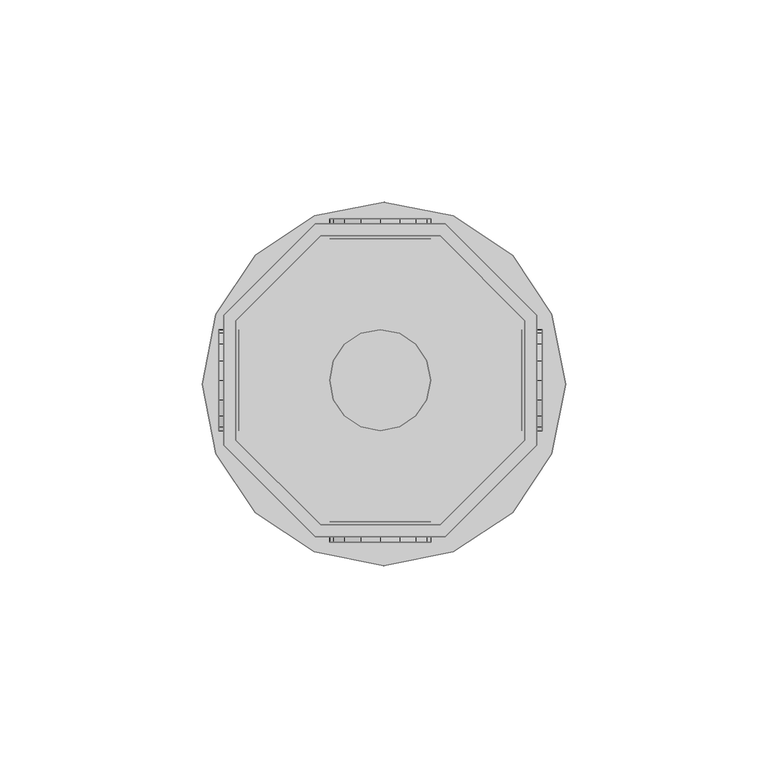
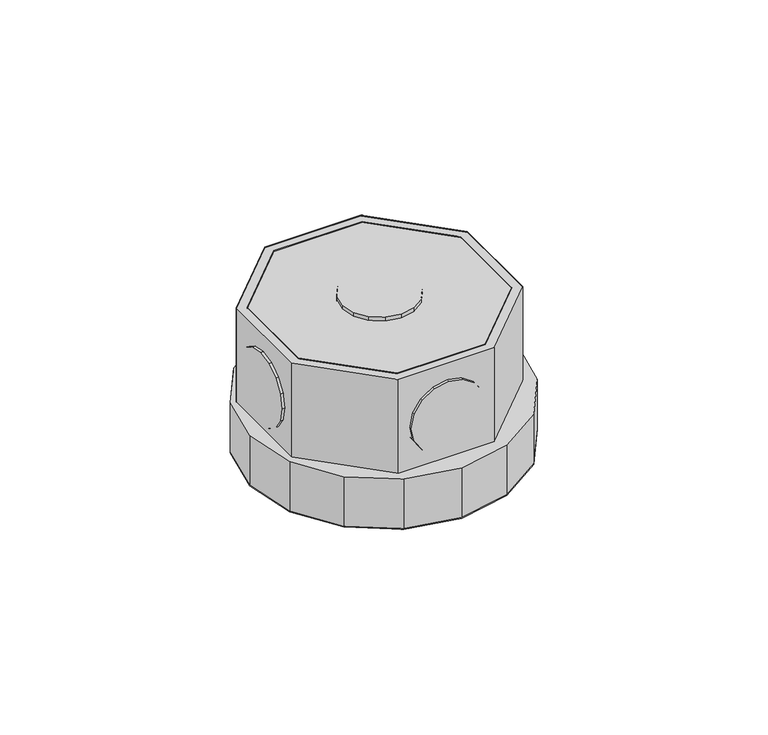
"""IFC4 building model written with IfcOpenShell, lengths in millimetres: light fixture geometry,  213980 :  213980."""

import ifcopenshell
import ifcopenshell.guid

model = None  # the IFC model being written
_history = None  # IfcOwnerHistory: only IFC2X3 demands one
_inside = {}  # id of a spatial element -> (the spatial element, [elements in it])
_under = {}  # id of a project, library or spatial element -> (it, [spatial elements below it])
_declared = {}  # id of a project -> (the project, [libraries it declares])
_typed = {}  # id of a type object -> (the type object, [elements of that type])
_made_of = {}  # id of a material, layer set ... -> (it, [elements and type objects made of it])


def new_model(schema):
    """Start an empty IFC model of exactly this schema.

    Asked for "IFC4X3", IfcOpenShell would pick the latest addendum, in which some entities
    have other attributes; the version numbers below select the first issue.
    IFC2X3 requires an IfcOwnerHistory on every rooted entity: one is made here for all.
    """
    global model, _history
    if schema == "IFC4X3":
        model = ifcopenshell.file(schema_version=(4, 3, 0, 0))
    else:
        model = ifcopenshell.file(schema=schema)
    _inside.clear()
    _under.clear()
    _declared.clear()
    _typed.clear()
    _made_of.clear()
    _history = None
    if model.schema == "IFC2X3":
        org = make("IfcOrganization", Name="unknown")
        user = make(
            "IfcPersonAndOrganization",
            ThePerson=make("IfcPerson", FamilyName="unknown"),
            TheOrganization=org,
        )
        app = make(
            "IfcApplication",
            ApplicationDeveloper=org,
            Version="unknown",
            ApplicationFullName="unknown",
            ApplicationIdentifier="unknown",
        )
        _history = make(
            "IfcOwnerHistory",
            OwningUser=user,
            OwningApplication=app,
            ChangeAction="ADDED",
            CreationDate=0,
        )
    return model


def make(cls, **values):
    """One entity of the class cls with the attributes given. An attribute that is None is left unset."""
    return model.create_entity(
        cls, **{name: value for name, value in values.items() if value is not None}
    )


def rooted(cls, **values):
    """An entity with a GlobalId (a new one), such as an element, a storey or a relation."""
    return make(cls, GlobalId=ifcopenshell.guid.new(), OwnerHistory=_history, **values)


def si_unit(unit_type, name, prefix=None):
    """IfcSIUnit, for example si_unit("LENGTHUNIT", "METRE", prefix="MILLI")."""
    return make("IfcSIUnit", UnitType=unit_type, Prefix=prefix, Name=name)


def assignment(units):
    """IfcUnitAssignment: the units of a project."""
    return None if units is None else make("IfcUnitAssignment", Units=units)


def point(xyz):
    """IfcCartesianPoint."""
    return None if xyz is None else make("IfcCartesianPoint", Coordinates=xyz)


def direction(xyz):
    """IfcDirection."""
    return None if xyz is None else make("IfcDirection", DirectionRatios=xyz)


def frame(location, z_axis=None, x_axis=None):
    """IfcAxis2Placement3D, a coordinate frame: its origin and axes. An axis left out is left unset."""
    return make(
        "IfcAxis2Placement3D",
        Location=point(location),
        Axis=direction(z_axis),
        RefDirection=direction(x_axis),
    )


def origin():
    """The frame at (0, 0, 0) with its axes left unset."""
    return frame((0.0, 0.0, 0.0))


def place(relative_to, where):
    """IfcLocalPlacement: puts the frame where relative to a parent placement (None: the world)."""
    return make(
        "IfcLocalPlacement", PlacementRelTo=relative_to, RelativePlacement=where
    )


def context(
    kind, dimensions, precision=None, world=None, true_north=None, identifier=None
):
    """IfcGeometricRepresentationContext, for example the 3D "Model" context."""
    return make(
        "IfcGeometricRepresentationContext",
        ContextIdentifier=identifier,
        ContextType=kind,
        CoordinateSpaceDimension=dimensions,
        Precision=precision,
        WorldCoordinateSystem=world,
        TrueNorth=true_north,
    )


def project(units=None, contexts=None):
    """IfcProject with its units and contexts."""
    return rooted(
        "IfcProject",
        Name="project",
        RepresentationContexts=contexts,
        UnitsInContext=assignment(units),
    )


def spatial(cls, under=None, at=None, **own):
    """A site, building, storey or space (cls), placed at a placement, below another one or the project."""
    s = rooted(cls, ObjectPlacement=at, **own)
    if under is not None:
        _under.setdefault(under.id(), (under, []))[1].append(s)
    return s


def point_list(points):
    """IfcCartesianPointList2D or 3D."""
    cls = (
        "IfcCartesianPointList2D" if len(points[0]) == 2 else "IfcCartesianPointList3D"
    )
    return make(cls, CoordList=points)


def triangles(points, corners, closed=None, point_numbers=None):
    """IfcTriangulatedFaceSet: each triangle names its three corners, points numbered from 1."""
    return make(
        "IfcTriangulatedFaceSet",
        Coordinates=point_list(points),
        Closed=closed,
        CoordIndex=corners,
        PnIndex=point_numbers,
    )


def shape(context_of_items, identifier, shape_type, items):
    """IfcShapeRepresentation: the items that make up one representation, for example the "Body"."""
    return make(
        "IfcShapeRepresentation",
        ContextOfItems=context_of_items,
        RepresentationIdentifier=identifier,
        RepresentationType=shape_type,
        Items=items,
    )


def source(mapping_origin, context_of_items, identifier, shape_type, items):
    """IfcRepresentationMap: a shape defined once, which mapped items show again and again."""
    return make(
        "IfcRepresentationMap",
        MappingOrigin=mapping_origin,
        MappedRepresentation=shape(context_of_items, identifier, shape_type, items),
    )


def transform(
    local_origin,
    x_axis=None,
    y_axis=None,
    z_axis=None,
    scale=None,
    scale2=None,
    scale3=None,
    uniform=True,
):
    """IfcCartesianTransformationOperator3D, or its non-uniform kind. x_axis, y_axis, z_axis: its Axis1, 2, 3."""
    if uniform:
        return make(
            "IfcCartesianTransformationOperator3D",
            Axis1=direction(x_axis),
            Axis2=direction(y_axis),
            LocalOrigin=point(local_origin),
            Scale=scale,
            Axis3=direction(z_axis),
        )
    return make(
        "IfcCartesianTransformationOperator3DnonUniform",
        Axis1=direction(x_axis),
        Axis2=direction(y_axis),
        LocalOrigin=point(local_origin),
        Scale=scale,
        Axis3=direction(z_axis),
        Scale2=scale2,
        Scale3=scale3,
    )


def mapped(mapping_source, mapping_target):
    """IfcMappedItem: shows the shape of a source again, moved by a transform."""
    return make(
        "IfcMappedItem", MappingSource=mapping_source, MappingTarget=mapping_target
    )


def made_of(thing, what):
    """Note that an element or type object is made of a material, layer set ...; save() writes the relation."""
    if what is not None:
        _made_of.setdefault(what.id(), (what, []))[1].append(thing)
    return thing


def element(
    cls,
    number,
    at=None,
    inside=None,
    cuts=None,
    type_object=None,
    material=None,
    context=None,
    identifier="Body",
    shape_type=None,
    held_by="IfcProductDefinitionShape",
    body=None,
    shapes=None,
    **own,
):
    """One element of the class cls, such as IfcWall. Its Tag is "e" and its number.

    at: its placement. inside: the storey or other place that contains it. cuts: it is an
    opening in that element (IfcRelVoidsElement). A single representation is given by context,
    identifier, shape_type and body (its items); several are given by shapes. held_by: the class
    of the entity that holds the representations. save() writes the other relations.
    """
    e = rooted(cls, Tag="e%d" % number, ObjectPlacement=at, **own)
    if body is not None:
        shapes = [shape(context, identifier, shape_type, body)]
    if shapes is not None:
        e.Representation = make(held_by, Representations=shapes)
    if inside is not None:
        _inside.setdefault(inside.id(), (inside, []))[1].append(e)
    if cuts is not None:
        rooted(
            "IfcRelVoidsElement", RelatingBuildingElement=cuts, RelatedOpeningElement=e
        )
    if type_object is not None:
        _typed.setdefault(type_object.id(), (type_object, []))[1].append(e)
    return made_of(e, material)


def aggregate(whole, parts):
    """IfcRelAggregates: a whole, such as a stair, and the parts it consists of."""
    return rooted("IfcRelAggregates", RelatingObject=whole, RelatedObjects=parts)


def save(model, path):
    """Write the relations noted so far, then the file.

    IfcRelAggregates (storeys below a building ...), IfcRelContainedInSpatialStructure (elements
    in a storey), IfcRelDefinesByType, IfcRelAssociatesMaterial and IfcRelDeclares: one each for
    every whole, place, type object, material and project.
    """
    for whole, parts in _under.values():
        aggregate(whole, parts)
    for where, things in _inside.values():
        rooted(
            "IfcRelContainedInSpatialStructure",
            RelatedElements=things,
            RelatingStructure=where,
        )
    for kind, things in _typed.values():
        rooted("IfcRelDefinesByType", RelatedObjects=things, RelatingType=kind)
    for what, things in _made_of.values():
        rooted("IfcRelAssociatesMaterial", RelatedObjects=things, RelatingMaterial=what)
    for by, libraries in _declared.values():
        rooted("IfcRelDeclares", RelatingContext=by, RelatedDefinitions=libraries)
    model.write(path)


def light_fixture_628bbf70(model_context):
    return source(origin(), model_context, "Body", "Tessellation", [
        triangles([(5260.3800751, 25358.0010132, 2924.5999741), (5230.7801376, 25358.0010132, 2975.400071), (5230.7801376, 25358.0010132, 2924.5999741), (5260.3800751, 25358.0010132, 2975.400071), (5261.5800018, 25283.5009094, 2924.5999741), (5229.480217, 25283.5009094, 2975.400071), (5229.480217, 25283.5009094, 2924.5999741), (5261.5800018, 25283.5009094, 2975.400071), (5209.7802567, 25336.9999695, 2975.400071), (5209.7802567, 25336.9999695, 2924.5999741), (5284.2797791, 25306.1995239, 2924.5999741), (5284.2797791, 25306.1995239, 2975.400071), (5209.7802567, 25307.3994507, 2975.400071), (5209.7802567, 25307.3994507, 2924.5999741), (5284.2797791, 25338.2998901, 2924.5999741), (5284.2797791, 25338.2998901, 2975.400071), (5230.7801376, 25286.5007263, 2975.400071), (5230.7801376, 25286.5007263, 2924.5999741), (5261.5800018, 25361.0008301, 2924.5999741), (5261.5800018, 25361.0008301, 2975.400071), (5260.3800751, 25286.5007263, 2924.5999741), (5260.3800751, 25286.5007263, 2975.400071), (5229.480217, 25361.0008301, 2975.400071), (5229.480217, 25361.0008301, 2924.5999741), (5281.2799622, 25307.3994507, 2924.5999741), (5281.2799622, 25307.3994507, 2975.400071), (5206.7798584, 25338.2998901, 2975.400071), (5206.7798584, 25338.2998901, 2924.5999741), (5206.7798584, 25306.1995239, 2975.400071), (5281.2799622, 25336.9999695, 2975.400071), (5281.2799622, 25336.9999695, 2924.5999741), (5206.7798584, 25306.1995239, 2924.5999741), (5209.7802567, 25307.3994507, 2972.3999634), (5230.7801376, 25286.5007263, 2972.3999634), (5260.3800751, 25286.5007263, 2972.3999634), (5281.2799622, 25307.3994507, 2972.3999634), (5281.2799622, 25336.9999695, 2972.3999634), (5260.3800751, 25358.0010132, 2972.3999634), (5230.7801376, 25358.0010132, 2972.3999634), (5209.7802567, 25336.9999695, 2972.3999634), (5206.7798584, 25338.2998901, 2942.4000504), (5229.480217, 25361.0008301, 2942.4000504), (5261.5800018, 25361.0008301, 2942.4000504), (5284.2797791, 25338.2998901, 2942.4000504), (5284.2797791, 25306.1995239, 2942.4000504), (5261.5800018, 25283.5009094, 2942.4000504), (5229.480217, 25283.5009094, 2942.4000504), (5206.7798584, 25306.1995239, 2942.4000504), (5229.1802353, 25279.8011353, 2942.4000504), (5204.8799744, 25304.0996521, 2942.4000504), (5214.5799637, 25289.5005432, 2942.4000504), (5201.4801819, 25321.3009277, 2942.4000504), (5204.8799744, 25338.5998718, 2942.4000504), (5214.5799637, 25353.1989807, 2942.4000504), (5229.1802353, 25362.9007141, 2942.4000504), (5246.4797607, 25366.3005066, 2942.4000504), (5263.6798737, 25362.9007141, 2942.4000504), (5287.9801346, 25338.5998718, 2942.4000504), (5278.2801453, 25353.1989807, 2942.4000504), (5246.4797607, 25276.2990234, 2942.4000504), (5263.6798737, 25279.8011353, 2942.4000504), (5278.2801453, 25289.5005432, 2942.4000504), (5287.9801346, 25304.0996521, 2942.4000504), (5291.479921, 25321.3009277, 2942.4000504), (5204.8799744, 25304.0996521, 2924.5999741), (5229.1802353, 25279.8011353, 2924.5999741), (5214.5799637, 25289.5005432, 2924.5999741), (5201.4801819, 25321.3009277, 2924.5999741), (5204.8799744, 25338.5998718, 2924.5999741), (5214.5799637, 25353.1989807, 2924.5999741), (5229.1802353, 25362.9007141, 2924.5999741), (5246.4797607, 25366.3005066, 2924.5999741), (5263.6798737, 25362.9007141, 2924.5999741), (5287.9801346, 25338.5998718, 2924.5999741), (5278.2801453, 25353.1989807, 2924.5999741), (5246.4797607, 25276.2990234, 2924.5999741), (5263.6798737, 25279.8011353, 2924.5999741), (5278.2801453, 25289.5005432, 2924.5999741), (5287.9801346, 25304.0996521, 2924.5999741), (5291.479921, 25321.3009277, 2924.5999741), (5233.9799423, 25362.2007568, 2952.6000092), (5240.7801086, 25362.2007568, 2945.9001274), (5236.6797775, 25362.2007568, 2948.5999626), (5233.0799973, 25362.2007568, 2957.4000069), (5245.5798157, 25362.2007568, 2944.8998978), (5233.9799423, 25362.2007568, 2962.2000046), (5250.3801041, 25362.2007568, 2945.9001274), (5236.6797775, 25362.2007568, 2966.2000511), (5254.3798599, 25362.2007568, 2948.5999626), (5240.7801086, 25362.2007568, 2968.8998863), (5257.0802765, 25362.2007568, 2952.6000092), (5245.5798157, 25362.2007568, 2969.900116), (5258.0802155, 25362.2007568, 2957.4000069), (5250.3801041, 25362.2007568, 2968.8998863), (5257.0802765, 25362.2007568, 2962.2000046), (5254.3798599, 25362.2007568, 2966.2000511), (5240.7801086, 25357.201062, 2945.9001274), (5233.9799423, 25357.201062, 2952.6000092), (5236.6797775, 25357.201062, 2948.5999626), (5245.5798157, 25357.201062, 2944.8998978), (5233.0799973, 25357.201062, 2957.4000069), (5250.3801041, 25357.201062, 2945.9001274), (5233.9799423, 25357.201062, 2962.2000046), (5254.3798599, 25357.201062, 2948.5999626), (5236.6797775, 25357.201062, 2966.2000511), (5240.7801086, 25357.201062, 2968.8998863), (5257.0802765, 25357.201062, 2952.6000092), (5245.5798157, 25357.201062, 2969.900116), (5258.0802155, 25357.201062, 2957.4000069), (5250.3801041, 25357.201062, 2968.8998863), (5257.0802765, 25357.201062, 2962.2000046), (5254.3798599, 25357.201062, 2966.2000511), (5233.9799423, 25287.2006836, 2952.6000092), (5240.7801086, 25287.2006836, 2945.9001274), (5236.6797775, 25287.2006836, 2948.5999626), (5233.0799973, 25287.2006836, 2957.4000069), (5245.5798157, 25287.2006836, 2944.8998978), (5233.9799423, 25287.2006836, 2962.2000046), (5250.3801041, 25287.2006836, 2945.9001274), (5236.6797775, 25287.2006836, 2966.2000511), (5254.3798599, 25287.2006836, 2948.5999626), (5240.7801086, 25287.2006836, 2968.8998863), (5257.0802765, 25287.2006836, 2952.6000092), (5245.5798157, 25287.2006836, 2969.900116), (5258.0802155, 25287.2006836, 2957.4000069), (5250.3801041, 25287.2006836, 2968.8998863), (5257.0802765, 25287.2006836, 2962.2000046), (5254.3798599, 25287.2006836, 2966.2000511), (5240.7801086, 25282.2009888, 2945.9001274), (5233.9799423, 25282.2009888, 2952.6000092), (5236.6797775, 25282.2009888, 2948.5999626), (5245.5798157, 25282.2009888, 2944.8998978), (5233.0799973, 25282.2009888, 2957.4000069), (5250.3801041, 25282.2009888, 2945.9001274), (5233.9799423, 25282.2009888, 2962.2000046), (5254.3798599, 25282.2009888, 2948.5999626), (5236.6797775, 25282.2009888, 2966.2000511), (5240.7801086, 25282.2009888, 2968.8998863), (5257.0802765, 25282.2009888, 2952.6000092), (5245.5798157, 25282.2009888, 2969.900116), (5258.0802155, 25282.2009888, 2957.4000069), (5250.3801041, 25282.2009888, 2968.8998863), (5257.0802765, 25282.2009888, 2962.2000046), (5254.3798599, 25282.2009888, 2966.2000511), (5210.5802078, 25317.3988403, 2945.9001274), (5210.5802078, 25310.6992493, 2952.6000092), (5210.5802078, 25313.3990845, 2948.5999626), (5210.5802078, 25322.2008728, 2944.8998978), (5210.5802078, 25309.6993103, 2957.4000069), (5210.5802078, 25327.0005798, 2945.9001274), (5210.5802078, 25310.6992493, 2962.2000046), (5210.5802078, 25331.1003296, 2948.5999626), (5210.5802078, 25313.3990845, 2966.2000511), (5210.5802078, 25317.3988403, 2968.8998863), (5210.5802078, 25333.8001648, 2952.6000092), (5210.5802078, 25322.2008728, 2969.900116), (5210.5802078, 25334.7001099, 2957.4000069), (5210.5802078, 25327.0005798, 2968.8998863), (5210.5802078, 25333.8001648, 2962.2000046), (5210.5802078, 25331.1003296, 2966.2000511), (5205.5799316, 25310.6992493, 2952.6000092), (5205.5799316, 25317.3988403, 2945.9001274), (5205.5799316, 25313.3990845, 2948.5999626), (5205.5799316, 25309.6993103, 2957.4000069), (5205.5799316, 25322.2008728, 2944.8998978), (5205.5799316, 25310.6992493, 2962.2000046), (5205.5799316, 25327.0005798, 2945.9001274), (5205.5799316, 25313.3990845, 2966.2000511), (5205.5799316, 25331.1003296, 2948.5999626), (5205.5799316, 25317.3988403, 2968.8998863), (5205.5799316, 25333.8001648, 2952.6000092), (5205.5799316, 25322.2008728, 2969.900116), (5205.5799316, 25334.7001099, 2957.4000069), (5205.5799316, 25327.0005798, 2968.8998863), (5205.5799316, 25333.8001648, 2962.2000046), (5205.5799316, 25331.1003296, 2966.2000511), (5285.5802811, 25317.3988403, 2945.9001274), (5285.5802811, 25310.6992493, 2952.6000092), (5285.5802811, 25313.3990845, 2948.5999626), (5285.5802811, 25322.2008728, 2944.8998978), (5285.5802811, 25309.6993103, 2957.4000069), (5285.5802811, 25327.0005798, 2945.9001274), (5285.5802811, 25310.6992493, 2962.2000046), (5285.5802811, 25331.1003296, 2948.5999626), (5285.5802811, 25313.3990845, 2966.2000511), (5285.5802811, 25317.3988403, 2968.8998863), (5285.5802811, 25333.8001648, 2952.6000092), (5285.5802811, 25322.2008728, 2969.900116), (5285.5802811, 25334.7001099, 2957.4000069), (5285.5802811, 25327.0005798, 2968.8998863), (5285.5802811, 25333.8001648, 2962.2000046), (5285.5802811, 25331.1003296, 2966.2000511), (5280.5800049, 25310.6992493, 2952.6000092), (5280.5800049, 25317.3988403, 2945.9001274), (5280.5800049, 25313.3990845, 2948.5999626), (5280.5800049, 25309.6993103, 2957.4000069), (5280.5800049, 25322.2008728, 2944.8998978), (5280.5800049, 25310.6992493, 2962.2000046), (5280.5800049, 25327.0005798, 2945.9001274), (5280.5800049, 25313.3990845, 2966.2000511), (5280.5800049, 25331.1003296, 2948.5999626), (5280.5800049, 25317.3988403, 2968.8998863), (5280.5800049, 25333.8001648, 2952.6000092), (5280.5800049, 25322.2008728, 2969.900116), (5280.5800049, 25334.7001099, 2957.4000069), (5280.5800049, 25327.0005798, 2968.8998863), (5280.5800049, 25333.8001648, 2962.2000046), (5280.5800049, 25331.1003296, 2966.2000511), (5240.7801086, 25310.6992493, 2976.9999733), (5233.9799423, 25317.3988403, 2976.9999733), (5236.6797775, 25313.3990845, 2976.9999733), (5233.0799973, 25322.2008728, 2976.9999733), (5245.5798157, 25309.6993103, 2976.9999733), (5233.9799423, 25327.0005798, 2976.9999733), (5250.3801041, 25310.6992493, 2976.9999733), (5236.6797775, 25331.1003296, 2976.9999733), (5254.3798599, 25313.3990845, 2976.9999733), (5240.7801086, 25333.8001648, 2976.9999733), (5257.0802765, 25317.3988403, 2976.9999733), (5245.5798157, 25334.7001099, 2976.9999733), (5258.0802155, 25322.2008728, 2976.9999733), (5250.3801041, 25333.8001648, 2976.9999733), (5257.0802765, 25327.0005798, 2976.9999733), (5254.3798599, 25331.1003296, 2976.9999733), (5233.9799423, 25317.3988403, 2971.9999878), (5240.7801086, 25310.6992493, 2971.9999878), (5236.6797775, 25313.3990845, 2971.9999878), (5233.0799973, 25322.2008728, 2971.9999878), (5245.5798157, 25309.6993103, 2971.9999878), (5233.9799423, 25327.0005798, 2971.9999878), (5250.3801041, 25310.6992493, 2971.9999878), (5236.6797775, 25331.1003296, 2971.9999878), (5254.3798599, 25313.3990845, 2971.9999878), (5240.7801086, 25333.8001648, 2971.9999878), (5257.0802765, 25317.3988403, 2971.9999878), (5245.5798157, 25334.7001099, 2971.9999878), (5258.0802155, 25322.2008728, 2971.9999878), (5250.3801041, 25333.8001648, 2971.9999878), (5257.0802765, 25327.0005798, 2971.9999878), (5254.3798599, 25331.1003296, 2971.9999878)], [[1, 2, 3], [2, 1, 4], [5, 6, 7], [6, 5, 8], [3, 9, 10], [9, 3, 2], [11, 8, 5], [8, 11, 12], [10, 13, 14], [13, 10, 9], [15, 12, 11], [12, 15, 16], [14, 17, 18], [17, 14, 13], [19, 16, 15], [16, 19, 20], [17, 21, 18], [21, 17, 22], [23, 19, 24], [19, 23, 20], [22, 25, 21], [25, 22, 26], [27, 24, 28], [24, 27, 23], [6, 13, 29], [29, 13, 27], [27, 13, 9], [27, 9, 23], [23, 9, 2], [23, 2, 4], [23, 4, 20], [20, 4, 30], [8, 17, 6], [6, 17, 13], [17, 8, 22], [12, 22, 8], [22, 12, 26], [30, 26, 12], [16, 30, 12], [20, 30, 16], [30, 1, 31], [1, 30, 4], [6, 32, 7], [32, 6, 29], [32, 14, 7], [28, 14, 32], [14, 28, 10], [24, 10, 28], [10, 24, 3], [1, 3, 24], [19, 1, 24], [31, 1, 19], [7, 18, 5], [14, 18, 7], [5, 18, 21], [5, 21, 11], [11, 21, 25], [11, 25, 31], [11, 31, 15], [15, 31, 19], [26, 31, 25], [31, 26, 30], [29, 28, 32], [28, 29, 27], [17, 33, 34], [33, 17, 13], [35, 17, 34], [17, 35, 22], [36, 22, 35], [22, 36, 26], [37, 26, 36], [26, 37, 30], [38, 30, 37], [30, 38, 4], [2, 38, 39], [38, 2, 4], [17, 9, 13], [9, 17, 22], [9, 22, 2], [2, 22, 26], [2, 26, 4], [4, 26, 30], [13, 40, 33], [40, 13, 9], [40, 34, 33], [35, 34, 40], [35, 40, 39], [35, 39, 36], [36, 39, 38], [36, 38, 37], [9, 39, 40], [39, 9, 2], [24, 41, 28], [41, 24, 42], [19, 42, 24], [42, 19, 43], [44, 19, 15], [19, 44, 43], [45, 15, 11], [15, 45, 44], [46, 11, 5], [11, 46, 45], [47, 5, 7], [5, 47, 46], [32, 47, 7], [47, 32, 48], [28, 48, 32], [48, 28, 41], [49, 50, 51], [48, 50, 49], [50, 48, 52], [41, 52, 48], [52, 41, 53], [53, 41, 54], [42, 54, 41], [54, 42, 55], [55, 42, 43], [55, 43, 56], [56, 43, 57], [57, 43, 44], [57, 44, 58], [57, 58, 59], [47, 49, 60], [49, 47, 48], [47, 60, 46], [61, 46, 60], [46, 61, 62], [46, 62, 45], [45, 62, 63], [44, 45, 63], [44, 63, 64], [44, 64, 58], [65, 66, 67], [66, 65, 32], [68, 32, 65], [32, 68, 28], [28, 68, 69], [70, 28, 69], [28, 70, 24], [71, 24, 70], [19, 24, 71], [19, 71, 72], [73, 19, 72], [19, 73, 15], [74, 15, 73], [74, 73, 75], [76, 66, 7], [32, 7, 66], [5, 76, 7], [76, 5, 77], [77, 5, 78], [11, 78, 5], [78, 11, 79], [79, 11, 15], [79, 15, 80], [80, 15, 74], [57, 75, 73], [75, 57, 59], [56, 73, 72], [73, 56, 57], [55, 72, 71], [72, 55, 56], [54, 71, 70], [71, 54, 55], [53, 70, 69], [70, 53, 54], [52, 69, 68], [69, 52, 53], [50, 68, 65], [68, 50, 52], [51, 65, 67], [65, 51, 50], [66, 51, 67], [51, 66, 49], [76, 49, 66], [49, 76, 60], [77, 60, 76], [60, 77, 61], [78, 61, 77], [61, 78, 62], [79, 62, 78], [62, 79, 63], [80, 63, 79], [63, 80, 64], [75, 58, 74], [58, 75, 59], [74, 64, 80], [64, 74, 58], [81, 82, 83], [82, 81, 84], [85, 82, 84], [85, 84, 86], [87, 85, 86], [87, 86, 88], [87, 88, 89], [89, 88, 90], [89, 90, 91], [91, 90, 92], [91, 92, 93], [93, 92, 94], [93, 94, 95], [95, 94, 96], [97, 98, 99], [98, 97, 100], [101, 98, 100], [101, 100, 102], [103, 101, 102], [103, 102, 104], [103, 104, 105], [105, 104, 106], [106, 104, 107], [106, 107, 108], [108, 107, 109], [108, 109, 110], [110, 109, 111], [110, 111, 112], [87, 104, 102], [104, 87, 89], [85, 102, 100], [102, 85, 87], [82, 100, 97], [100, 82, 85], [83, 97, 99], [97, 83, 82], [98, 83, 99], [83, 98, 81], [101, 81, 98], [81, 101, 84], [103, 84, 101], [84, 103, 86], [105, 86, 103], [86, 105, 88], [106, 88, 105], [88, 106, 90], [108, 90, 106], [90, 108, 92], [110, 92, 108], [92, 110, 94], [112, 94, 110], [94, 112, 96], [95, 112, 111], [112, 95, 96], [93, 111, 109], [111, 93, 95], [89, 107, 104], [107, 89, 91], [91, 109, 107], [109, 91, 93], [113, 114, 115], [114, 113, 116], [117, 114, 116], [117, 116, 118], [119, 117, 118], [119, 118, 120], [119, 120, 121], [121, 120, 122], [121, 122, 123], [123, 122, 124], [123, 124, 125], [125, 124, 126], [125, 126, 127], [127, 126, 128], [129, 130, 131], [130, 129, 132], [133, 130, 132], [133, 132, 134], [135, 133, 134], [135, 134, 136], [135, 136, 137], [137, 136, 138], [138, 136, 139], [138, 139, 140], [140, 139, 141], [140, 141, 142], [142, 141, 143], [142, 143, 144], [119, 136, 134], [136, 119, 121], [117, 134, 132], [134, 117, 119], [114, 132, 129], [132, 114, 117], [115, 129, 131], [129, 115, 114], [130, 115, 131], [115, 130, 113], [133, 113, 130], [113, 133, 116], [135, 116, 133], [116, 135, 118], [137, 118, 135], [118, 137, 120], [138, 120, 137], [120, 138, 122], [140, 122, 138], [122, 140, 124], [142, 124, 140], [124, 142, 126], [144, 126, 142], [126, 144, 128], [127, 144, 143], [144, 127, 128], [125, 143, 141], [143, 125, 127], [121, 139, 136], [139, 121, 123], [123, 141, 139], [141, 123, 125], [145, 146, 147], [146, 145, 148], [149, 146, 148], [149, 148, 150], [151, 149, 150], [151, 150, 152], [151, 152, 153], [153, 152, 154], [154, 152, 155], [154, 155, 156], [156, 155, 157], [156, 157, 158], [158, 157, 159], [158, 159, 160], [161, 162, 163], [162, 161, 164], [165, 162, 164], [165, 164, 166], [167, 165, 166], [167, 166, 168], [169, 167, 168], [169, 168, 170], [169, 170, 171], [171, 170, 172], [171, 172, 173], [173, 172, 174], [173, 174, 175], [175, 174, 176], [158, 176, 174], [176, 158, 160], [156, 174, 172], [174, 156, 158], [154, 172, 170], [172, 154, 156], [153, 170, 168], [170, 153, 154], [151, 168, 166], [168, 151, 153], [149, 166, 164], [166, 149, 151], [146, 164, 161], [164, 146, 149], [147, 161, 163], [161, 147, 146], [162, 147, 163], [147, 162, 145], [165, 145, 162], [145, 165, 148], [167, 148, 165], [148, 167, 150], [169, 150, 167], [150, 169, 152], [171, 152, 169], [152, 171, 155], [173, 155, 171], [155, 173, 157], [176, 159, 175], [159, 176, 160], [175, 157, 173], [157, 175, 159], [177, 178, 179], [178, 177, 180], [181, 178, 180], [181, 180, 182], [183, 181, 182], [183, 182, 184], [183, 184, 185], [185, 184, 186], [186, 184, 187], [186, 187, 188], [188, 187, 189], [188, 189, 190], [190, 189, 191], [190, 191, 192], [193, 194, 195], [194, 193, 196], [197, 194, 196], [197, 196, 198], [199, 197, 198], [199, 198, 200], [201, 199, 200], [201, 200, 202], [201, 202, 203], [203, 202, 204], [203, 204, 205], [205, 204, 206], [205, 206, 207], [207, 206, 208], [190, 208, 206], [208, 190, 192], [188, 206, 204], [206, 188, 190], [186, 204, 202], [204, 186, 188], [185, 202, 200], [202, 185, 186], [183, 200, 198], [200, 183, 185], [181, 198, 196], [198, 181, 183], [178, 196, 193], [196, 178, 181], [179, 193, 195], [193, 179, 178], [194, 179, 195], [179, 194, 177], [197, 177, 194], [177, 197, 180], [199, 180, 197], [180, 199, 182], [201, 182, 199], [182, 201, 184], [203, 184, 201], [184, 203, 187], [205, 187, 203], [187, 205, 189], [208, 191, 207], [191, 208, 192], [207, 189, 205], [189, 207, 191], [209, 210, 211], [212, 210, 209], [212, 209, 213], [214, 212, 213], [214, 213, 215], [216, 214, 215], [216, 215, 217], [216, 217, 218], [218, 217, 219], [218, 219, 220], [220, 219, 221], [220, 221, 222], [222, 221, 223], [222, 223, 224], [225, 226, 227], [226, 225, 228], [229, 226, 228], [229, 228, 230], [231, 229, 230], [231, 230, 232], [231, 232, 233], [233, 232, 234], [233, 234, 235], [235, 234, 236], [235, 236, 237], [237, 236, 238], [237, 238, 239], [239, 238, 240], [222, 240, 238], [240, 222, 224], [220, 238, 236], [238, 220, 222], [218, 236, 234], [236, 218, 220], [216, 234, 232], [234, 216, 218], [214, 232, 230], [232, 214, 216], [212, 230, 228], [230, 212, 214], [210, 228, 225], [228, 210, 212], [211, 225, 227], [225, 211, 210], [226, 211, 227], [211, 226, 209], [229, 209, 226], [209, 229, 213], [231, 213, 229], [213, 231, 215], [233, 215, 231], [215, 233, 217], [235, 217, 233], [217, 235, 219], [237, 219, 235], [219, 237, 221], [240, 223, 239], [223, 240, 224], [239, 221, 237], [221, 239, 223]], closed=False),
    ])


if __name__ == "__main__":
    model = new_model("IFC4")
    model_context = context("Model", 3, world=origin())
    ifc_project = project(units=[si_unit("LENGTHUNIT", "METRE", prefix="MILLI")], contexts=[model_context])
    site = spatial("IfcSite", under=ifc_project)
    building = spatial("IfcBuilding", under=site)
    placement = place(None, origin())
    light_fixture_shape = light_fixture_628bbf70(model_context)
    element("IfcLightFixture", 1, ObjectType=" 213980 :  213980", at=placement, inside=building, context=model_context, shape_type="MappedRepresentation", body=[
        mapped(light_fixture_shape, transform((0.0, 0.0, 0.0), x_axis=(1.0, 0.0, 0.0), y_axis=(0.0, 1.0, 0.0), z_axis=(0.0, 0.0, 1.0))),
    ])
    save(model, "model.ifc")
